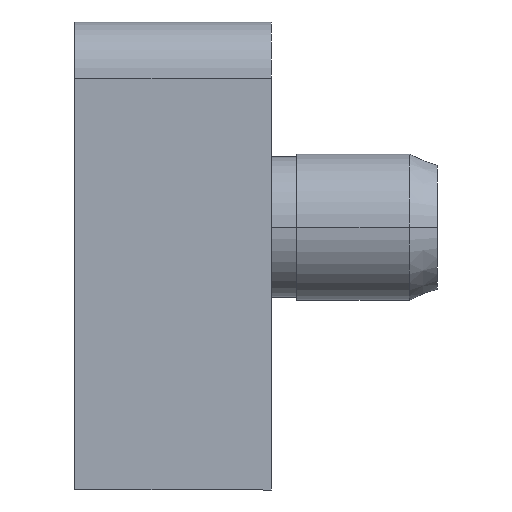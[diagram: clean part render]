
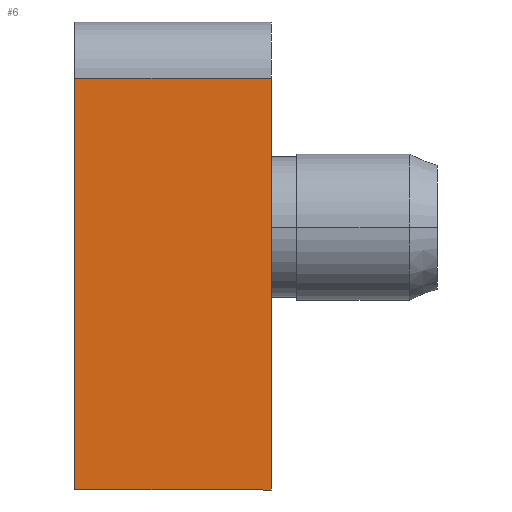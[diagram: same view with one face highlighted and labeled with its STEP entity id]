
A CAD part, left-side view. The second image highlights one B-rep face of the part: STEP entity #6.
In plain terms, the highlighted planar face has unit normal (-1, 0, 0).
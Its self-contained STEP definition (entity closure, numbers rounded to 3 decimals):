
#6 = ADVANCED_FACE ( 'NONE', ( #325 ), #743, .F. ) ;
#59 = EDGE_CURVE ( 'NONE', #726, #730, #181, .T. ) ;
#67 = EDGE_CURVE ( 'NONE', #727, #730, #185, .T. ) ;
#70 = EDGE_CURVE ( 'NONE', #733, #726, #195, .T. ) ;
#82 = EDGE_CURVE ( 'NONE', #733, #727, #216, .T. ) ;
#99 = AXIS2_PLACEMENT_3D ( 'NONE', #764, #749, #745 ) ;
#181 = LINE ( 'NONE', #560, #183 ) ;
#183 = VECTOR ( 'NONE', #573, 1000. ) ;
#185 = LINE ( 'NONE', #604, #187 ) ;
#187 = VECTOR ( 'NONE', #622, 1000. ) ;
#195 = LINE ( 'NONE', #623, #201 ) ;
#201 = VECTOR ( 'NONE', #614, 1000. ) ;
#213 = VECTOR ( 'NONE', #674, 1000. ) ;
#216 = LINE ( 'NONE', #675, #213 ) ;
#258 = ORIENTED_EDGE ( 'NONE', *, *, #59, .F. ) ;
#295 = EDGE_LOOP ( 'NONE', ( #401, #258, #365, #394 ) ) ;
#325 = FACE_OUTER_BOUND ( 'NONE', #295, .T. ) ;
#365 = ORIENTED_EDGE ( 'NONE', *, *, #70, .F. ) ;
#394 = ORIENTED_EDGE ( 'NONE', *, *, #82, .T. ) ;
#401 = ORIENTED_EDGE ( 'NONE', *, *, #67, .T. ) ;
#560 = CARTESIAN_POINT ( 'NONE',  ( -6.9, 14., 10.6 ) ) ;
#573 = DIRECTION ( 'NONE',  ( 0., -1., 0. ) ) ;
#592 = CARTESIAN_POINT ( 'NONE',  ( -6.9, 14., -18.7 ) ) ;
#604 = CARTESIAN_POINT ( 'NONE',  ( -6.9, 0., -18.7 ) ) ;
#610 = CARTESIAN_POINT ( 'NONE',  ( -6.9, 0., -18.7 ) ) ;
#614 = DIRECTION ( 'NONE',  ( 0., 0., 1. ) ) ;
#622 = DIRECTION ( 'NONE',  ( 0., 0., 1. ) ) ;
#623 = CARTESIAN_POINT ( 'NONE',  ( -6.9, 14., -18.7 ) ) ;
#630 = CARTESIAN_POINT ( 'NONE',  ( -6.9, 0., 10.6 ) ) ;
#632 = CARTESIAN_POINT ( 'NONE',  ( -6.9, 14., 10.6 ) ) ;
#674 = DIRECTION ( 'NONE',  ( 0., -1., 0. ) ) ;
#675 = CARTESIAN_POINT ( 'NONE',  ( -6.9, 14., -18.7 ) ) ;
#726 = VERTEX_POINT ( 'NONE', #632 ) ;
#727 = VERTEX_POINT ( 'NONE', #610 ) ;
#730 = VERTEX_POINT ( 'NONE', #630 ) ;
#733 = VERTEX_POINT ( 'NONE', #592 ) ;
#743 = PLANE ( 'NONE',  #99 ) ;
#745 = DIRECTION ( 'NONE',  ( 0., 0., -1. ) ) ;
#749 = DIRECTION ( 'NONE',  ( 1., 0., 0. ) ) ;
#764 = CARTESIAN_POINT ( 'NONE',  ( -6.9, 14., -18.7 ) ) ;
